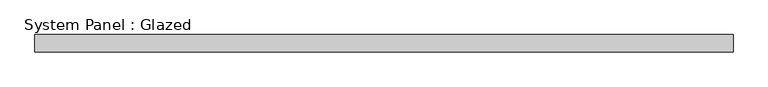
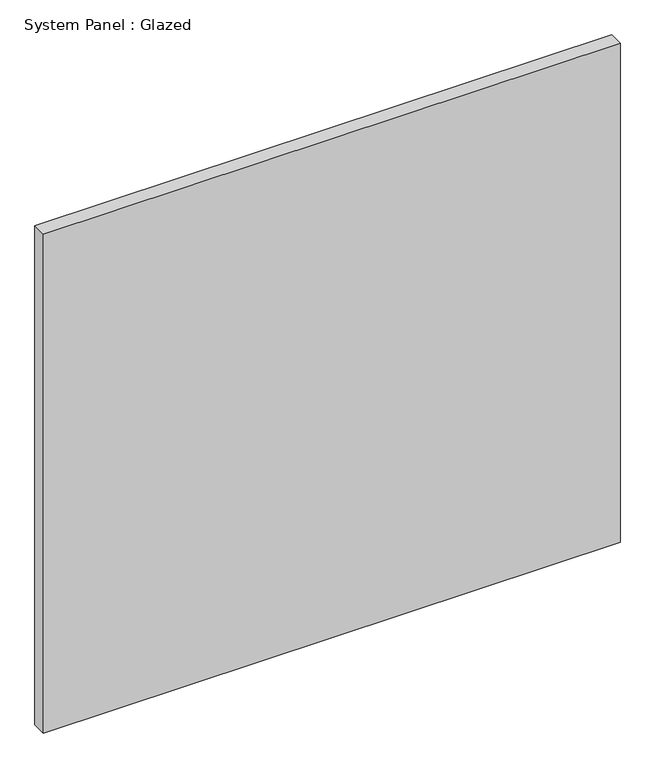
"""IFC4 building model written with IfcOpenShell, lengths in millimetres: plate geometry, System Panel : Glazed."""

from ifc_helpers import new_model, si_unit, origin, origin_with_axes, place, context, project, spatial, polyline, outline, extrude, source, transform, mapped, element, save


def system_panel_glazed_c406ecc0(model_context):
    return source(origin(), model_context, "Body", "SweptSolid", [
        extrude(outline(polyline([(505.8333334, 24.5), (-505.8333334, 24.5), (-505.8333334, 49.5), (505.8333334, 49.5), (505.8333334, 24.5)])), origin_with_axes(), (0.0, 0.0, 1.0), 925.0),
    ])


if __name__ == "__main__":
    model = new_model("IFC4")
    model_context = context("Model", 3, world=origin())
    ifc_project = project(units=[si_unit("LENGTHUNIT", "METRE", prefix="MILLI")], contexts=[model_context])
    site = spatial("IfcSite", under=ifc_project)
    building = spatial("IfcBuilding", under=site)
    placement = place(None, origin())
    system_panel_glazed_shape = system_panel_glazed_c406ecc0(model_context)
    element("IfcPlate", 1, ObjectType="System Panel : Glazed", at=placement, inside=building, context=model_context, shape_type="MappedRepresentation", body=[
        mapped(system_panel_glazed_shape, transform((0.0, 0.0, 0.0), x_axis=(1.0, 0.0, 0.0), y_axis=(0.0, 1.0, 0.0), z_axis=(0.0, 0.0, 1.0))),
    ])
    save(model, "model.ifc")
